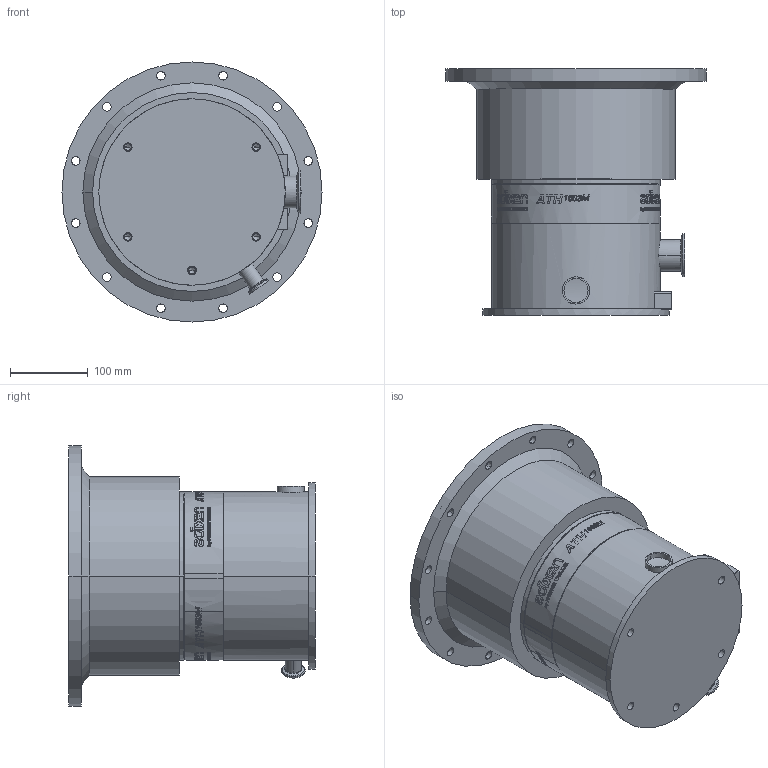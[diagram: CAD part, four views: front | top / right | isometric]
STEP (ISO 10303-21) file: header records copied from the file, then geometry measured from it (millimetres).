
FILE_DESCRIPTION((''),'2;1');
FILE_NAME('ENV-ATH1603MY2662100','2012-05-21T',('RCRIADO'),(''),'PRO/ENGINEER BY PARAMETRIC TECHNOLOGY CORPORATION, 2010230','PRO/ENGINEER BY PARAMETRIC TECHNOLOGY CORPORATION, 2010230','');
FILE_SCHEMA(('CONFIG_CONTROL_DESIGN'));
Products named in the file (1): ENV-ATH1603MY2662100
Bounding box: 335 x 317.15 x 335 mm (x, y, z)
Volume: 14212335.5 mm3; surface area: 473074.4 mm2
Topology: 1 solids, 10 shells, 2189 faces, 5998 edges, 3961 vertices
Faces by surface type: bspline 1261, plane 586, cylinder 282, cone 52, torus 8
Entity records: 95130 total; most frequent: CARTESIAN_POINT 47097, ORIENTED_EDGE 11940, DIRECTION 6444, EDGE_CURVE 5980, VERTEX_POINT 3961, VECTOR 2636, LINE 2636, EDGE_LOOP 2373
